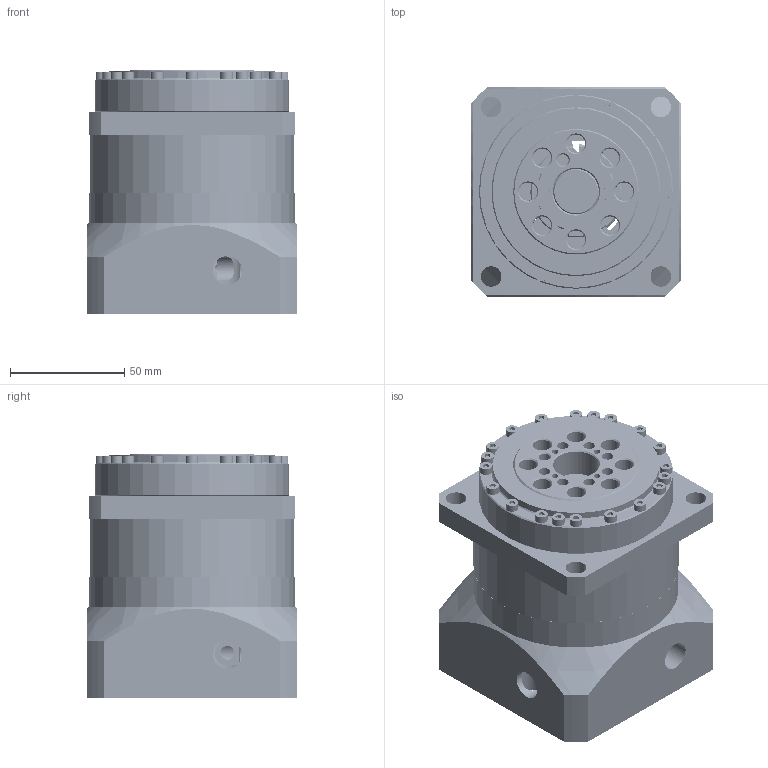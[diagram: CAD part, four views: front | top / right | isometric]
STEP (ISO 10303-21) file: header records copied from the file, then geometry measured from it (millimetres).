
FILE_DESCRIPTION (( 'STEP AP203' ), '1' );
FILE_NAME ('GNDU90L1-19-70-90-M6.STEP', '2016-07-25T02:20:18', ( 'user' ), ( '' ), 'SwSTEP 2.0', 'SolidWorks 2012', '' );
FILE_SCHEMA (( 'CONFIG_CONTROL_DESIGN' ));
Length unit declared in the file: millimetre
Products named in the file (1): GNDU90L1-19-70-90-M6
Bounding box: 92 x 92 x 106.75 mm (x, y, z)
Volume: 517790.2 mm3; surface area: 161489.4 mm2
Topology: 34 solids, 34 shells, 4842 faces, 10130 edges, 5427 vertices
Faces by surface type: cone 3937, cylinder 509, plane 394, bspline 2
Entity records: 127314 total; most frequent: DIRECTION 24645, CARTESIAN_POINT 21917, ORIENTED_EDGE 20180, EDGE_CURVE 10090, AXIS2_PLACEMENT_3D 9785, VERTEX_POINT 5427, EDGE_LOOP 5137, VECTOR 5075
